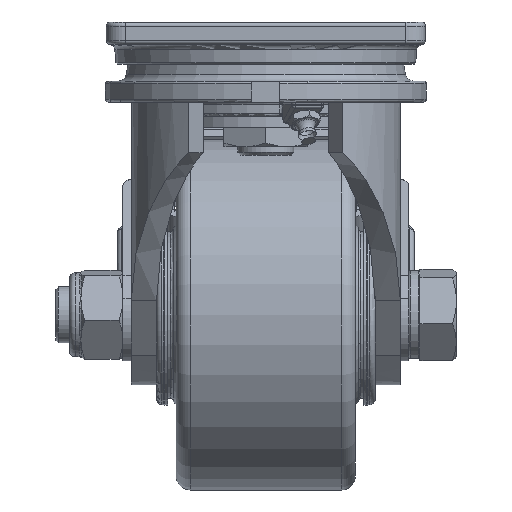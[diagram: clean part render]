
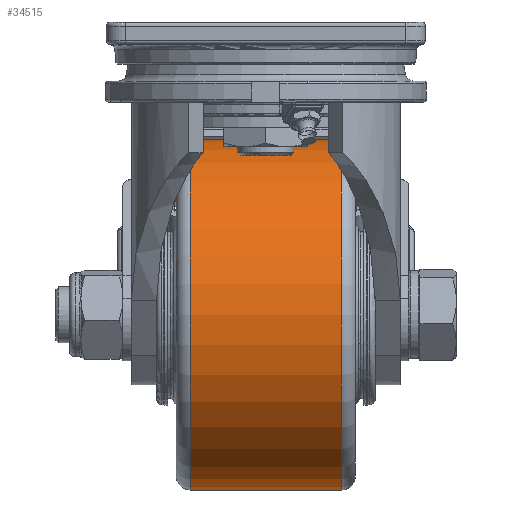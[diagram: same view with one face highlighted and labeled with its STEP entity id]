
A CAD part, left-side view. The second image highlights one B-rep face of the part: STEP entity #34515.
In plain terms, the highlighted cylindrical face has radius 62.5 mm (diameter 125 mm), a full revolution.
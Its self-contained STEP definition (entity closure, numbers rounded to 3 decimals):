
#2845=LINE('',#49647,#5434);
#5434=VECTOR('',#40198,62.5);
#7959=CYLINDRICAL_SURFACE('',#36675,62.5);
#8539=FACE_OUTER_BOUND('',#10612,.T.);
#10612=EDGE_LOOP('',(#23670,#23671,#23672,#23673,#23674,#23675));
#12840=CIRCLE('',#36672,62.5);
#12841=CIRCLE('',#36673,62.5);
#12843=CIRCLE('',#36676,62.5);
#12844=CIRCLE('',#36677,62.5);
#14561=VERTEX_POINT('',#49637);
#14562=VERTEX_POINT('',#49638);
#14563=VERTEX_POINT('',#49643);
#14564=VERTEX_POINT('',#49644);
#18092=EDGE_CURVE('',#14561,#14562,#12840,.T.);
#18093=EDGE_CURVE('',#14562,#14561,#12841,.T.);
#18095=EDGE_CURVE('',#14563,#14564,#12843,.T.);
#18096=EDGE_CURVE('',#14564,#14563,#12844,.T.);
#18097=EDGE_CURVE('',#14564,#14561,#2845,.T.);
#23670=ORIENTED_EDGE('',*,*,#18095,.F.);
#23671=ORIENTED_EDGE('',*,*,#18096,.F.);
#23672=ORIENTED_EDGE('',*,*,#18097,.T.);
#23673=ORIENTED_EDGE('',*,*,#18092,.T.);
#23674=ORIENTED_EDGE('',*,*,#18093,.T.);
#23675=ORIENTED_EDGE('',*,*,#18097,.F.);
#34515=ADVANCED_FACE('',(#8539),#7959,.T.);
#36672=AXIS2_PLACEMENT_3D('',#49639,#40186,#40187);
#36673=AXIS2_PLACEMENT_3D('',#49640,#40188,#40189);
#36675=AXIS2_PLACEMENT_3D('',#49642,#40192,#40193);
#36676=AXIS2_PLACEMENT_3D('',#49645,#40194,#40195);
#36677=AXIS2_PLACEMENT_3D('',#49646,#40196,#40197);
#40186=DIRECTION('center_axis',(0.,1.,0.));
#40187=DIRECTION('ref_axis',(1.,0.,0.));
#40188=DIRECTION('center_axis',(0.,1.,0.));
#40189=DIRECTION('ref_axis',(1.,0.,0.));
#40192=DIRECTION('center_axis',(0.,1.,0.));
#40193=DIRECTION('ref_axis',(0.,0.,-1.));
#40194=DIRECTION('center_axis',(0.,1.,0.));
#40195=DIRECTION('ref_axis',(1.,0.,0.));
#40196=DIRECTION('center_axis',(0.,1.,0.));
#40197=DIRECTION('ref_axis',(1.,0.,0.));
#40198=DIRECTION('',(0.,-1.,0.));
#49637=CARTESIAN_POINT('',(44.195,-27.,-12.));
#49638=CARTESIAN_POINT('',(44.195,-27.,-137.));
#49639=CARTESIAN_POINT('Origin',(44.195,-27.,-74.5));
#49640=CARTESIAN_POINT('Origin',(44.195,-27.,-74.5));
#49642=CARTESIAN_POINT('Origin',(44.195,0.,
-74.5));
#49643=CARTESIAN_POINT('',(44.195,27.,-137.));
#49644=CARTESIAN_POINT('',(44.195,27.,-12.));
#49645=CARTESIAN_POINT('Origin',(44.195,27.,-74.5));
#49646=CARTESIAN_POINT('Origin',(44.195,27.,-74.5));
#49647=CARTESIAN_POINT('',(44.195,0.,-12.));
